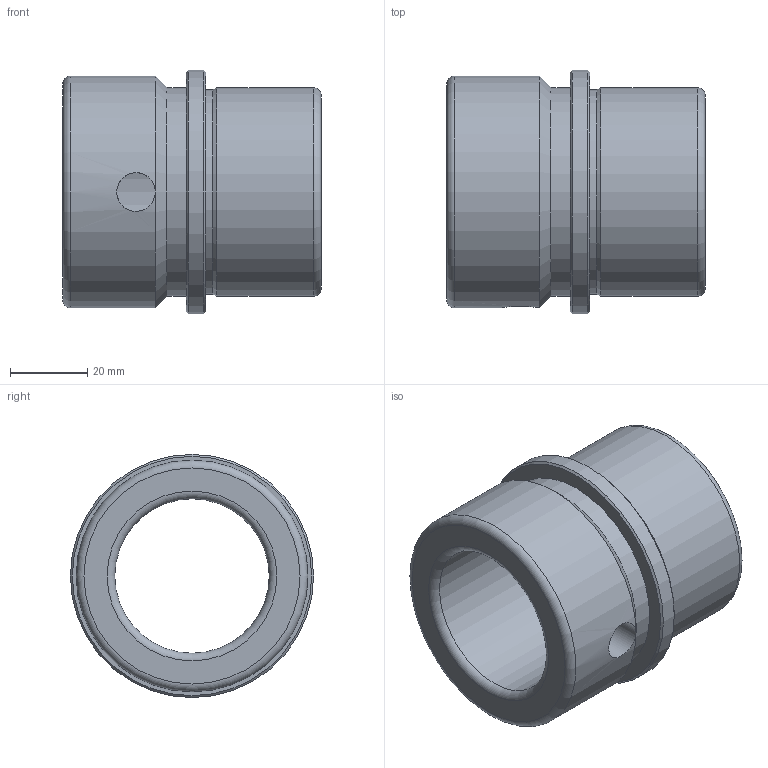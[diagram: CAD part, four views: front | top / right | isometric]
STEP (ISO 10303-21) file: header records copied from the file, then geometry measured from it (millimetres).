
FILE_DESCRIPTION(/* description */ ('Impex Ready, www.impex-ready.pl'),/* implementation_level */ '2;1');
FILE_NAME(/* name */ 'C:\Users\VIKKY\Nextcloud\SM\projekt 10 - części na stronę internetową\Pliki_3D_new\294 Tuleje BE\294_Tuleje_BE_STEP\BE40M.ipt.step',/* time_stamp */ '2021-12-17T14:07:23+01:00',/* author */ ('SM'),/* organization */ (''),/* preprocessor_version */ 'ST-DEVELOPER v18.1',/* originating_system */ 'Autodesk Inventor 2021',/* authorisation */ '');
FILE_SCHEMA (('AUTOMOTIVE_DESIGN { 1 0 10303 214 3 1 1 }'));
Length unit declared in the file: millimetre
Products named in the file (1): BE40M
Bounding box: 67 x 63 x 63 mm (x, y, z)
Volume: 85506.7 mm3; surface area: 24504.9 mm2
Topology: 1 solids, 1 shells, 19 faces, 43 edges, 26 vertices
Faces by surface type: cylinder 7, torus 4, plane 4, cone 4
Full cylindrical faces by diameter (mm): 10 x1, 40 x1, 53 x1, 54 x2, 60 x1, 63 x1
Entity records: 685 total; most frequent: CARTESIAN_POINT 159, DIRECTION 104, ORIENTED_EDGE 86, AXIS2_PLACEMENT_3D 46, EDGE_CURVE 43, CIRCLE 26, VERTEX_POINT 26, EDGE_LOOP 23
